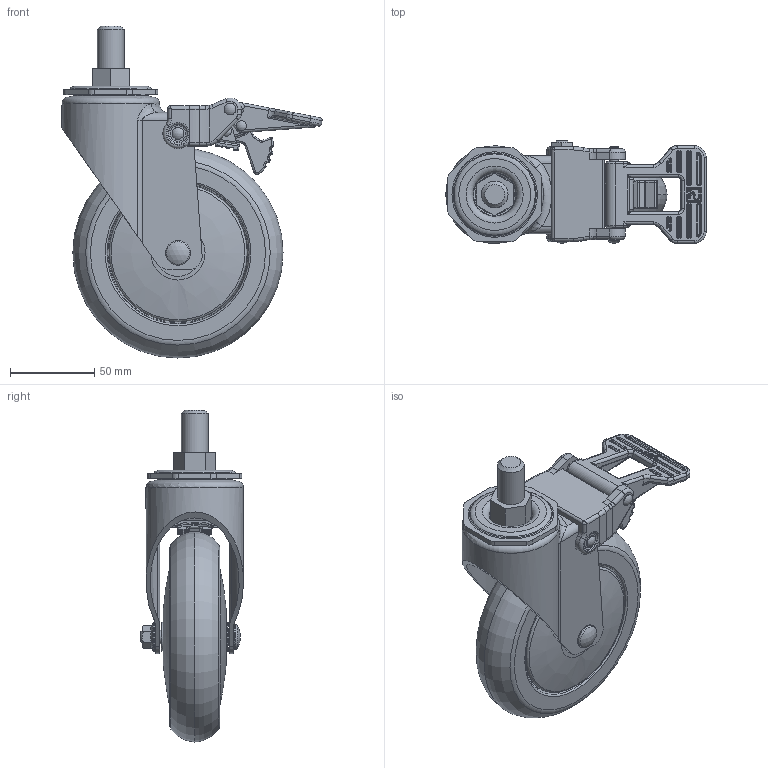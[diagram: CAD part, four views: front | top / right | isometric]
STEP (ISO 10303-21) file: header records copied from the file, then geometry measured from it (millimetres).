
FILE_DESCRIPTION(/* description */ (''),/* implementation_level */ '2;1');
FILE_NAME(/* name */ 'E:\홈피용도면\\X2\C2E0ADDCD648D398C774C9C0C6A9B3C4BA74\X0\\무소음캐스터\20160225-\X2\BB34C18CC74CCE90C2A4D130\X0\\PL-125-BSS.stp',/* time_stamp */ '2016-02-25T22:38:47+09:00',/* author */ ('장용하'),/* organization */ (''),/* preprocessor_version */ 'ST-DEVELOPER v15.6',/* originating_system */ 'Autodesk Inventor 2015',/* authorisation */ '');
FILE_SCHEMA (('AUTOMOTIVE_DESIGN { 1 0 10303 214 3 1 1 }'));
Products named in the file (1): PL-125-BSS
Bounding box: 154.7 x 61.25 x 197.4 mm (x, y, z)
Volume: 382170.5 mm3; surface area: 137030.7 mm2
Topology: 2 solids, 2 shells, 1595 faces, 3897 edges, 2264 vertices
Faces by surface type: cylinder 642, plane 431, torus 233, bspline 130, sphere 107, cone 52
Full cylindrical faces by diameter (mm): 4 x2, 4.2 x8, 5 x2, 5.2 x6, 6 x4, 7 x4, 8 x2, 12.5 x1, 14.6 x1, 15.875 x1, 17 x1, 22 x2, 24.667 x2, 32.333 x2, 34 x1, 36 x1, 41 x1, 53 x1, 58 x1
Entity records: 53465 total; most frequent: CARTESIAN_POINT 16898, DIRECTION 8114, ORIENTED_EDGE 7262, EDGE_CURVE 3629, AXIS2_PLACEMENT_3D 3288, VERTEX_POINT 2245, EDGE_LOOP 1850, CIRCLE 1694
